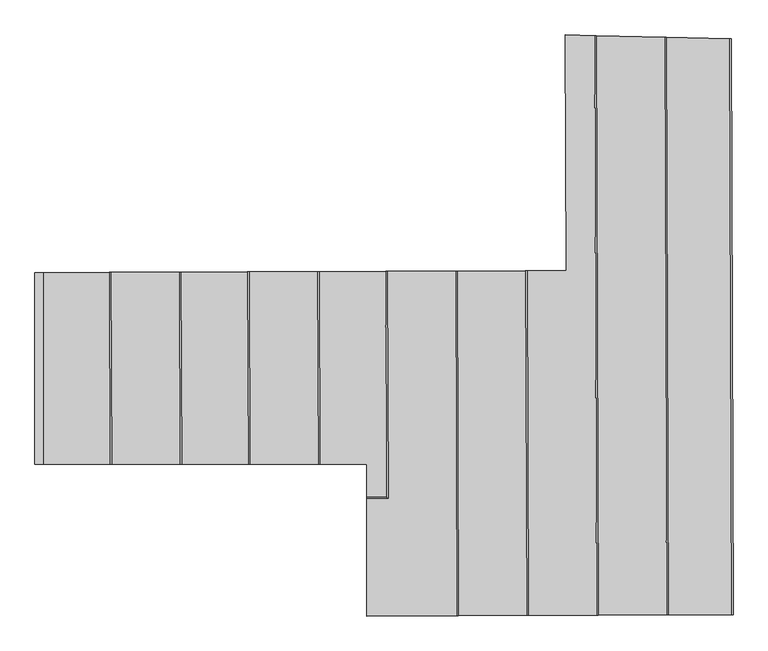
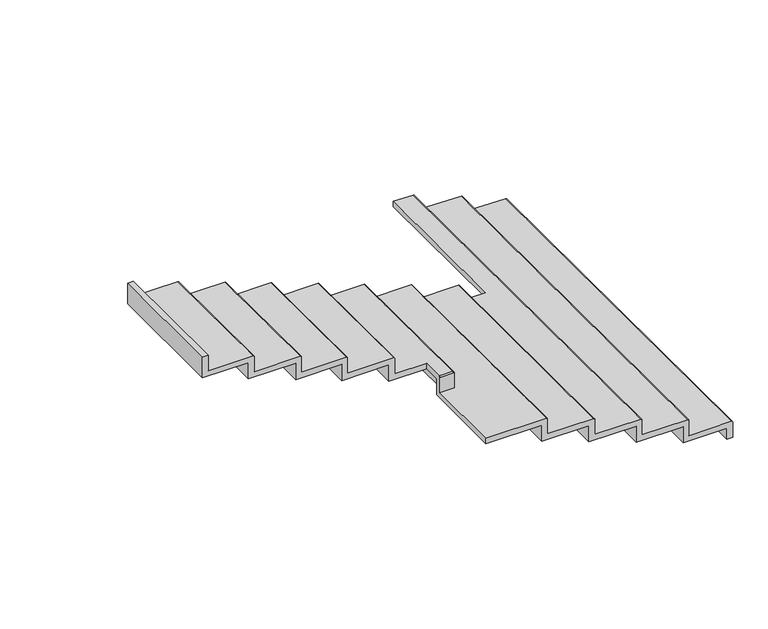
"""IFC4 building model written with IfcOpenShell, lengths in millimetres: stair flight geometry, Huella 50 mm Contrahuella 13 mm."""

from ifc_helpers import new_model, si_unit, frame, origin, place, context, project, spatial, circle_curve, ellipse_curve, source, transform, mapped, element, save
from ifc_brep_helpers import plane_surface, cylinder_surface, advanced_brep


def stair_flight_43c18c51(model_context):
    return source(origin(), model_context, "Body", "AdvancedBrep", [
        advanced_brep(
        [(34094.8858461, 5285.0023956, -2870.9090909), (34094.8858461, 5285.0023956, -3010.0), (34044.8813126, 5286.2226046, -3010.0), (34044.8813126, 5286.2226046, -2910.9090909), (33664.7198812, 5295.4992909, -2910.9090909), (33664.7198812, 5295.4992909, -2761.8181818), (33254.682278, 5305.5050145, -2761.8181818), (33254.682278, 5305.5050145, -2612.7272727), (33122.8734749, 5308.7214084, -2612.7272727), (33122.8734749, 5308.7214084, -2562.7272727), (33294.6859466, 5304.5288463, -2562.7272727), (33304.6868638, 5304.2848043, -2572.7272727), (33304.6868638, 5304.2848043, -2711.8181818), (33704.7235498, 5294.5231227, -2711.8181818), (33714.7244669, 5294.2790807, -2721.8181818), (33714.7244669, 5294.2790807, -2860.9090909), (34084.8849394, 5285.2464374, -2860.9090909), (34056.5950278, 1909.3473942, -3010.0), (34106.5947205, 1909.5227074, -3010.0), (34106.5947205, 1909.5227074, -2870.9090909), (34096.594782, 1909.4876448, -2860.9090909), (33726.5970563, 1908.1903276, -2860.9090909), (33726.5970563, 1908.1903276, -2721.8181818), (33716.5971178, 1908.155265, -2711.8181818), (33316.5995766, 1906.7527599, -2711.8181818), (33316.5995766, 1906.7527599, -2572.7272727), (33306.5996381, 1906.7176973, -2562.7272727), (32906.6020968, 1905.3151922, -2562.7272727), (32906.6020968, 1905.3151922, -2423.6363636), (32896.6021583, 1905.2801296, -2413.6363636), (32496.6046171, 1903.8776245, -2413.6363636), (32496.6046171, 1903.8776245, -2274.5454545), (32486.6046786, 1903.8425619, -2264.5454545), (31959.5548544, 1901.9945755, -2264.5454545), (31959.5548544, 1901.9945755, -2314.5454545), (32446.6049245, 1903.7023114, -2314.5454545), (32446.6049245, 1903.7023114, -2463.6363636), (32856.6024042, 1905.1398791, -2463.6363636), (32856.6024042, 1905.1398791, -2612.7272727), (33266.599884, 1906.5774468, -2612.7272727), (33266.599884, 1906.5774468, -2761.8181818), (33676.5973637, 1908.0150144, -2761.8181818), (33676.5973637, 1908.0150144, -2910.9090909), (34056.5950278, 1909.3473942, -2910.9090909), (33127.7213283, 3926.1029162, -2562.7272727), (32899.5194463, 3925.3027756, -2562.7272727), (33127.7213283, 3926.1029162, -2612.7272727), (32849.5197537, 3925.1274625, -2612.7272727), (32899.5194463, 3925.3027756, -2423.6363636), (32849.5197537, 3925.1274625, -2463.6363636), (32889.5195078, 3925.267713, -2413.6363636), (32489.5219666, 3923.865208, -2413.6363636), (32439.522274, 3923.6898949, -2463.6363636), (32489.5219666, 3923.865208, -2274.5454545), (32439.522274, 3923.6898949, -2314.5454545), (31959.5548544, 2591.998817, -2264.5454545), (32479.5220281, 3923.8301454, -2264.5454545), (32079.5244868, 3922.4276404, -2264.5454545), (32084.1878161, 2592.4358158, -2264.5454545), (31959.5548544, 2641.9991243, -2314.5454545), (32034.0128103, 2642.2601953, -2314.5454545), (32029.5247942, 3922.2523272, -2314.5454545), (31959.5548544, 2591.998817, -2125.4545455), (31959.5548544, 2601.9988785, -2115.4545455), (31959.5548544, 2792.0000466, -2115.4545455), (31959.5548544, 2792.0000466, -2165.4545455), (31959.5548544, 2641.9991243, -2165.4545455), (32079.5244868, 3922.4276404, -2125.4545455), (32084.1878161, 2592.4358158, -2125.4545455), (32034.0128103, 2642.2601953, -2165.4545455), (32029.5247942, 3922.2523272, -2165.4545455), (31683.4856284, 2792.0000466, -2115.4545455), (32074.152815, 2602.4006917, -2115.4545455), (32069.5245483, 3922.3925777, -2115.4545455), (31679.5269456, 3921.0251354, -2115.4545455), (31633.4853211, 2792.0000466, -2165.4545455), (31629.527253, 3920.8498222, -2165.4545455), (31683.4856284, 2792.0000466, -1976.3636364), (31673.485567, 2792.0000466, -1966.3636364), (31273.4831082, 2792.0000466, -1966.3636364), (31273.4831082, 2792.0000466, -1827.2727273), (31263.4830467, 2792.0000466, -1817.2727273), (30873.4806494, 2792.0000466, -1817.2727273), (30873.4806494, 2792.0000466, -1678.1818182), (30863.4805879, 2792.0000466, -1668.1818182), (30463.4781291, 2792.0000466, -1668.1818182), (30463.4781291, 2792.0000466, -1529.0909091), (30453.4780676, 2792.0000466, -1519.0909091), (30063.4756703, 2792.0000466, -1519.0909091), (30063.4756703, 2792.0000466, -1380.0), (30013.4756703, 2792.0000466, -1380.0), (30013.4756703, 2792.0000466, -1569.0909091), (30413.4778217, 2792.0000466, -1569.0909091), (30413.4778217, 2792.0000466, -1718.1818182), (30823.480342, 2792.0000466, -1718.1818182), (30823.480342, 2792.0000466, -1867.2727273), (31223.4828008, 2792.0000466, -1867.2727273), (31223.4828008, 2792.0000466, -2016.3636364), (31633.4853211, 2792.0000466, -2016.3636364), (31679.5269456, 3921.0251354, -1976.3636364), (31629.527253, 3920.8498222, -2016.3636364), (31669.5270071, 3920.9900727, -1966.3636364), (31269.5294659, 3919.5875677, -1966.3636364), (31219.5297732, 3919.4122546, -2016.3636364), (31269.5294659, 3919.5875677, -1827.2727273), (31219.5297732, 3919.4122546, -1867.2727273), (31259.5295273, 3919.5525051, -1817.2727273), (30869.5319247, 3918.1850627, -1817.2727273), (30819.532232, 3918.0097496, -1867.2727273), (30869.5319247, 3918.1850627, -1678.1818182), (30819.532232, 3918.0097496, -1718.1818182), (30859.5319861, 3918.1500001, -1668.1818182), (30459.5344449, 3916.7474951, -1668.1818182), (30409.5347523, 3916.572182, -1718.1818182), (30459.5344449, 3916.7474951, -1529.0909091), (30409.5347523, 3916.572182, -1569.0909091), (30063.4756703, 3915.3588005, -1380.0), (30063.4756703, 3915.3588005, -1519.0909091), (30013.4756703, 3915.1834863, -1569.0909091), (30013.4756703, 3915.1834863, -1380.0), (30449.5345064, 3916.7124325, -1519.0909091)],
        [
            (0, 1),
            (1, 2),
            (2, 3),
            (3, 4),
            (4, 5),
            (5, 6),
            (6, 7),
            (7, 8),
            (8, 9),
            (9, 10),
            (10, 11, ellipse_curve(frame((33294.6859466, 5304.5288463, -2572.7272727), z_axis=(0.024394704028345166, 0.9997024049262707, 0.0), x_axis=(-0.9997024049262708, 0.024394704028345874, 0.0)), 10.0038943, 10.0)),
            (11, 12),
            (12, 13),
            (13, 14, ellipse_curve(frame((33704.7235498, 5294.5231227, -2721.8181818), z_axis=(0.024394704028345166, 0.9997024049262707, 0.0), x_axis=(-0.9997024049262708, 0.024394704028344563, 0.0)), 10.0038943, 10.0)),
            (14, 15),
            (15, 16),
            (16, 0, ellipse_curve(frame((34084.8849394, 5285.2464374, -2870.9090909), z_axis=(0.024394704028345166, 0.9997024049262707, 0.0), x_axis=(-0.9997024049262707, 0.024394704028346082, 0.0)), 10.0038838, 10.0)),
            (17, 18),
            (18, 19),
            (19, 20, ellipse_curve(frame((34096.594782, 1909.4876448, -2870.9090909), z_axis=(0.003506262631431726, -0.9999938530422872, 0.0), x_axis=(0.9999938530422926, 0.003506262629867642, 0.0)), 10.0, 10.0)),
            (20, 21),
            (21, 22),
            (22, 23, circle_curve(frame((33716.5971178, 1908.155265, -2721.8181818), z_axis=(0.0035062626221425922, -0.9999938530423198, 0.0), x_axis=(-0.9999938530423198, -0.0035062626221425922, 0.0)), 10.0)),
            (23, 24),
            (24, 25),
            (25, 26, circle_curve(frame((33306.5996381, 1906.7176973, -2572.7272727), z_axis=(0.003506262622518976, -0.9999938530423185, 0.0), x_axis=(-0.9999938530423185, -0.003506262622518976, 0.0)), 10.0)),
            (26, 27),
            (27, 28),
            (28, 29, circle_curve(frame((32896.6021583, 1905.2801296, -2423.6363636), z_axis=(0.0035062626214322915, -0.9999938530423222, 0.0), x_axis=(-0.9999938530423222, -0.0035062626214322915, 0.0)), 10.0)),
            (29, 30),
            (30, 31),
            (31, 32, circle_curve(frame((32486.6046786, 1903.8425619, -2274.5454545), z_axis=(0.003506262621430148, -0.9999938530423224, 0.0), x_axis=(-0.9999938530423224, -0.003506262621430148, 0.0)), 10.0)),
            (32, 33),
            (33, 34),
            (34, 35),
            (35, 36),
            (36, 37),
            (37, 38),
            (38, 39),
            (39, 40),
            (40, 41),
            (41, 42),
            (42, 43),
            (43, 17),
            (0, 19),
            (18, 1),
            (17, 2),
            (43, 3),
            (20, 16),
            (15, 21),
            (42, 4),
            (14, 22),
            (41, 5),
            (23, 13),
            (12, 24),
            (40, 6),
            (11, 25),
            (39, 7),
            (26, 10),
            (9, 44),
            (44, 45),
            (45, 27),
            (46, 8),
            (38, 47),
            (47, 46),
            (45, 48),
            (48, 28),
            (37, 49),
            (49, 47),
            (29, 50),
            (50, 51),
            (51, 30),
            (36, 52),
            (52, 49),
            (51, 53),
            (53, 31),
            (35, 54),
            (54, 52),
            (55, 33),
            (32, 56),
            (56, 57),
            (57, 58),
            (58, 55),
            (34, 59),
            (59, 60),
            (60, 61),
            (61, 54),
            (55, 62),
            (62, 63, ellipse_curve(frame((31959.5548544, 2601.9988785, -2125.4545455), z_axis=(-1.0, 0.0, 0.0), x_axis=(0.0, 0.9999999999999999, 0.0)), 10.0000615, 10.0)),
            (63, 64),
            (64, 65),
            (65, 66),
            (66, 59),
            (57, 67),
            (67, 68),
            (68, 58),
            (60, 69),
            (69, 70),
            (70, 61),
            (68, 62),
            (66, 69),
            (71, 64),
            (63, 72),
            (72, 73),
            (73, 74),
            (74, 71),
            (65, 75),
            (75, 76),
            (76, 70),
            (71, 77),
            (77, 78, ellipse_curve(frame((31673.485567, 2792.0000466, -1976.3636364), z_axis=(0.0, -1.0, 0.0), x_axis=(-0.9999999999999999, 0.0, 0.0)), 10.0000615, 10.0)),
            (78, 79),
            (79, 80),
            (80, 81, ellipse_curve(frame((31263.4830467, 2792.0000466, -1827.2727273), z_axis=(0.0, -1.0, 0.0), x_axis=(-0.9999999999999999, 0.0, 0.0)), 10.0000615, 10.0)),
            (81, 82),
            (82, 83),
            (83, 84, ellipse_curve(frame((30863.4805879, 2792.0000466, -1678.1818182), z_axis=(0.0, -1.0, 0.0), x_axis=(-1.0, 0.0, 0.0)), 10.0000615, 10.0)),
            (84, 85),
            (85, 86),
            (86, 87, ellipse_curve(frame((30453.4780676, 2792.0000466, -1529.0909091), z_axis=(0.0, -1.0, 0.0), x_axis=(-1.0, 0.0, 0.0)), 10.0000615, 10.0)),
            (87, 88),
            (88, 89),
            (89, 90),
            (90, 91),
            (91, 92),
            (92, 93),
            (93, 94),
            (94, 95),
            (95, 96),
            (96, 97),
            (97, 98),
            (98, 75),
            (74, 99),
            (99, 77),
            (98, 100),
            (100, 76),
            (78, 101),
            (101, 102),
            (102, 79),
            (97, 103),
            (103, 100),
            (102, 104),
            (104, 80),
            (96, 105),
            (105, 103),
            (81, 106),
            (106, 107),
            (107, 82),
            (95, 108),
            (108, 105),
            (107, 109),
            (109, 83),
            (94, 110),
            (110, 108),
            (84, 111),
            (111, 112),
            (112, 85),
            (93, 113),
            (113, 110),
            (112, 114),
            (114, 86),
            (92, 115),
            (115, 113),
            (116, 89),
            (88, 117),
            (117, 116),
            (91, 118),
            (118, 115),
            (119, 118),
            (90, 119),
            (116, 119),
            (87, 120),
            (120, 117),
            (46, 44),
            (120, 114, circle_curve(frame((30449.5345064, 3916.7124325, -1529.0909091), z_axis=(-0.003506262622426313, 0.9999938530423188, 0.0), x_axis=(-0.9999938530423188, -0.003506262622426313, 0.0)), 10.0)),
            (111, 109, circle_curve(frame((30859.5319861, 3918.1500001, -1678.1818182), z_axis=(-0.003506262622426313, 0.9999938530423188, 0.0), x_axis=(-0.9999938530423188, -0.003506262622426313, 0.0)), 10.0)),
            (106, 104, circle_curve(frame((31259.5295273, 3919.5525051, -1827.2727273), z_axis=(-0.0035062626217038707, 0.9999938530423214, 0.0), x_axis=(-0.9999938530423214, -0.0035062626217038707, 0.0)), 10.0)),
            (101, 99, circle_curve(frame((31669.5270071, 3920.9900727, -1976.3636364), z_axis=(-0.003506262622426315, 0.9999938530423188, 0.0), x_axis=(-0.9999938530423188, -0.003506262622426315, 0.0)), 10.0)),
            (73, 67, circle_curve(frame((32069.5245483, 3922.3925777, -2125.4545455), z_axis=(-0.0035062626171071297, 0.9999938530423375, 0.0), x_axis=(-0.9999938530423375, -0.0035062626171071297, 0.0)), 10.0)),
            (56, 53, circle_curve(frame((32479.5220281, 3923.8301454, -2274.5454545), z_axis=(-0.003506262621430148, 0.9999938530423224, 0.0), x_axis=(-0.9999938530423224, -0.003506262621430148, 0.0)), 10.0)),
            (50, 48, circle_curve(frame((32889.5195078, 3925.267713, -2423.6363636), z_axis=(-0.0035062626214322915, 0.9999938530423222, 0.0), x_axis=(-0.9999938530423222, -0.0035062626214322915, 0.0)), 10.0)),
            (72, 68, ellipse_curve(frame((32074.152815, 2602.4006917, -2125.4545455), z_axis=(0.7046231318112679, 0.7095817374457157, 0.0), x_axis=(-0.7095817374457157, 0.7046231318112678, 0.0)), 14.1421356, 10.0)),
        ],
        [
            plane_surface(frame((34084.8849394, 5285.2464374, -2860.9090909), z_axis=(0.024394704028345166, 0.9997024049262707, 0.0), x_axis=(0.9997024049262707, -0.024394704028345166, 0.0))),
            plane_surface(frame((34096.594782, 1909.4876448, -2860.9090909), z_axis=(0.003506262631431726, -0.9999938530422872, 0.0), x_axis=(0.9999938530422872, 0.003506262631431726, 0.0))),
            plane_surface(frame((34094.8858461, 5285.0023956, -2870.9090909), z_axis=(0.9999939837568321, 0.003468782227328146, 0.0), x_axis=(0.003468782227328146, -0.9999939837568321, 0.0))),
            plane_surface(frame((34094.8858461, 5285.0023956, -3010.0), z_axis=(0.0, 0.0, -1.0), x_axis=(0.003468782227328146, -0.9999939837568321, 0.0))),
            plane_surface(frame((34044.8813126, 5286.2226046, -3010.0), z_axis=(-0.9999939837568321, -0.0034687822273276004, 0.0), x_axis=(0.0034687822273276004, -0.9999939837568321, 0.0))),
            plane_surface(frame((34056.5950279, 1909.3473942, -2860.9090909), z_axis=(0.0, 0.0, 1.0), x_axis=(0.9999938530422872, 0.003506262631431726, 0.0))),
            plane_surface(frame((34056.5950279, 1909.3473942, -2910.9090909), z_axis=(0.0, 0.0, -1.0), x_axis=(-0.9999938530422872, -0.003506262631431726, 0.0))),
            plane_surface(frame((33714.7244669, 5294.2790807, -2721.8181818), z_axis=(0.9999938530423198, 0.003506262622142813, 0.0), x_axis=(0.003506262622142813, -0.9999938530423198, 0.0))),
            plane_surface(frame((33664.7198812, 5295.4992909, -2910.9090909), z_axis=(-0.9999938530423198, -0.0035062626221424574, 0.0), x_axis=(0.0035062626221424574, -0.9999938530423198, 0.0))),
            plane_surface(frame((34056.5950279, 1909.3473942, -2711.8181818), z_axis=(0.0, 0.0, 1.0), x_axis=(0.9999938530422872, 0.003506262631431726, 0.0))),
            plane_surface(frame((34056.5950279, 1909.3473942, -2761.8181818), z_axis=(0.0, 0.0, -1.0), x_axis=(-0.9999938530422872, -0.003506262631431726, 0.0))),
            plane_surface(frame((33304.6868638, 5304.2848043, -2572.7272727), z_axis=(0.9999938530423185, 0.0035062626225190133, 0.0), x_axis=(0.0035062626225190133, -0.9999938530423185, 0.0))),
            plane_surface(frame((33254.682278, 5305.5050145, -2761.8181818), z_axis=(-0.9999938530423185, -0.0035062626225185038, 0.0), x_axis=(0.0035062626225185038, -0.9999938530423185, 0.0))),
            plane_surface(frame((34056.5950279, 1909.3473942, -2562.7272727), z_axis=(0.0, 0.0, 1.0), x_axis=(0.9999938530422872, 0.003506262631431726, 0.0))),
            plane_surface(frame((34056.5950279, 1909.3473942, -2612.7272727), z_axis=(0.0, 0.0, -1.0), x_axis=(-0.9999938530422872, -0.003506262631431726, 0.0))),
            plane_surface(frame((32899.5194463, 3925.3027756, -2423.6363636), z_axis=(0.9999938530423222, 0.0035062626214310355, 0.0), x_axis=(0.0035062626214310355, -0.9999938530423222, 0.0))),
            plane_surface(frame((32849.5197537, 3925.1274625, -2612.7272727), z_axis=(-0.9999938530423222, -0.0035062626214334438, 0.0), x_axis=(0.0035062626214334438, -0.9999938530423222, 0.0))),
            plane_surface(frame((34056.5950279, 1909.3473942, -2413.6363636), z_axis=(0.0, 0.0, 1.0), x_axis=(0.9999938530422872, 0.003506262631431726, 0.0))),
            plane_surface(frame((34056.5950279, 1909.3473942, -2463.6363636), z_axis=(0.0, 0.0, -1.0), x_axis=(-0.9999938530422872, -0.003506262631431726, 0.0))),
            plane_surface(frame((32489.5219666, 3923.865208, -2274.5454545), z_axis=(0.9999938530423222, 0.003506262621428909, 0.0), x_axis=(0.003506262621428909, -0.9999938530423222, 0.0))),
            plane_surface(frame((32439.522274, 3923.6898949, -2463.6363636), z_axis=(-0.9999938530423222, -0.0035062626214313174, 0.0), x_axis=(0.0035062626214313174, -0.9999938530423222, 0.0))),
            plane_surface(frame((31959.5548544, 84.8504741, -2264.5454545), z_axis=(0.0, 0.0, 1.0), x_axis=(0.0, -1.0, 0.0))),
            plane_surface(frame((31959.5548544, 84.8504741, -2314.5454545), z_axis=(0.0, 0.0, -1.0), x_axis=(0.0, 1.0, 0.0))),
            plane_surface(frame((31959.5548544, 2591.998817, -2264.5454545), z_axis=(-1.0, 0.0, 0.0), x_axis=(0.0, 0.0, -1.0))),
            plane_surface(frame((32079.5244868, 3922.4276404, -2125.4545455), z_axis=(0.9999938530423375, 0.003506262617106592, 0.0), x_axis=(0.003506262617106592, -0.9999938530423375, 0.0))),
            plane_surface(frame((32029.5247942, 3922.2523272, -2314.5454545), z_axis=(-0.9999938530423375, -0.0035062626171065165, 0.0), x_axis=(0.0035062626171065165, -0.9999938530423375, 0.0))),
            plane_surface(frame((32084.1878161, 2592.4358158, -2125.4545455), z_axis=(0.003506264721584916, -0.9999938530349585, 0.0), x_axis=(-0.9999938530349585, -0.003506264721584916, 0.0))),
            plane_surface(frame((32034.0128103, 2642.2601953, -2314.5454545), z_axis=(-0.0035062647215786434, 0.9999938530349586, 0.0), x_axis=(-0.9999938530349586, -0.0035062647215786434, 0.0))),
            plane_surface(frame((31959.5548544, 2792.0000466, -2115.4545455), z_axis=(0.0, 0.0, 1.0), x_axis=(1.0, 0.0, 0.0))),
            plane_surface(frame((31959.5548544, 2792.0000466, -2165.4545455), z_axis=(0.0, 0.0, -1.0), x_axis=(-1.0, 0.0, 0.0))),
            plane_surface(frame((31683.4856284, 2792.0000466, -2115.4545455), z_axis=(0.0, -1.0, 0.0), x_axis=(0.0, 0.0, -1.0))),
            plane_surface(frame((31679.5269456, 3921.0251354, -1976.3636364), z_axis=(0.9999938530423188, 0.0035062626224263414, 0.0), x_axis=(0.0035062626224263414, -0.9999938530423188, 0.0))),
            plane_surface(frame((31629.527253, 3920.8498222, -2165.4545455), z_axis=(-0.9999938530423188, -0.003506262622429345, 0.0), x_axis=(0.003506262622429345, -0.9999938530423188, 0.0))),
            plane_surface(frame((31959.5548544, 2792.0000466, -1966.3636364), z_axis=(0.0, 0.0, 1.0), x_axis=(1.0, 0.0, 0.0))),
            plane_surface(frame((31959.5548544, 2792.0000466, -2016.3636364), z_axis=(0.0, 0.0, -1.0), x_axis=(-1.0, 0.0, 0.0))),
            plane_surface(frame((31269.5294659, 3919.5875677, -1827.2727273), z_axis=(0.9999938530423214, 0.0035062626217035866, 0.0), x_axis=(0.0035062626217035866, -0.9999938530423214, 0.0))),
            plane_surface(frame((31219.5297732, 3919.4122546, -2016.3636364), z_axis=(-0.9999938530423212, -0.0035062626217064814, 0.0), x_axis=(0.0035062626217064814, -0.9999938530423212, 0.0))),
            plane_surface(frame((31959.5548544, 2792.0000466, -1817.2727273), z_axis=(0.0, 0.0, 1.0), x_axis=(1.0, 0.0, 0.0))),
            plane_surface(frame((31959.5548544, 2792.0000466, -1867.2727273), z_axis=(0.0, 0.0, -1.0), x_axis=(-1.0, 0.0, 0.0))),
            plane_surface(frame((30869.5319247, 3918.1850627, -1678.1818182), z_axis=(0.9999938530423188, 0.0035062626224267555, 0.0), x_axis=(0.0035062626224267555, -0.9999938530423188, 0.0))),
            plane_surface(frame((30819.532232, 3918.0097496, -1867.2727273), z_axis=(-0.9999938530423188, -0.0035062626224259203, 0.0), x_axis=(0.0035062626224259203, -0.9999938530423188, 0.0))),
            plane_surface(frame((31959.5548544, 2792.0000466, -1668.1818182), z_axis=(0.0, 0.0, 1.0), x_axis=(1.0, 0.0, 0.0))),
            plane_surface(frame((31959.5548544, 2792.0000466, -1718.1818182), z_axis=(0.0, 0.0, -1.0), x_axis=(-1.0, 0.0, 0.0))),
            plane_surface(frame((30459.5344449, 3916.7474951, -1529.0909091), z_axis=(0.9999938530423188, 0.0035062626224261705, 0.0), x_axis=(0.0035062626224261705, -0.9999938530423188, 0.0))),
            plane_surface(frame((30409.5347523, 3916.572182, -1718.1818182), z_axis=(-0.9999938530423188, -0.003506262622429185, 0.0), x_axis=(0.003506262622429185, -0.9999938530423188, 0.0))),
            plane_surface(frame((30063.4756703, 3915.3588005, -1380.0), z_axis=(1.0, 0.0, 0.0), x_axis=(0.0, -1.0, 0.0))),
            plane_surface(frame((30063.4756703, 3915.3588005, -1569.0909091), z_axis=(0.0, 0.0, -1.0), x_axis=(0.0, -1.0, 0.0))),
            plane_surface(frame((30013.4756703, 3915.1834863, -1569.0909091), z_axis=(-1.0, 0.0, 0.0), x_axis=(0.0, -1.0, 0.0))),
            plane_surface(frame((30013.4756703, 3915.1834863, -1380.0), z_axis=(0.0, 0.0, 1.0), x_axis=(0.0, -1.0, 0.0))),
            plane_surface(frame((31959.5548544, 2792.0000466, -1519.0909091), z_axis=(0.0, 0.0, 1.0), x_axis=(1.0, 0.0, 0.0))),
            plane_surface(frame((33122.8734749, 5308.7214084, -2562.7272727), z_axis=(-0.9999938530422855, -0.003506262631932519, 0.0), x_axis=(0.0, 0.0, -1.0))),
            plane_surface(frame((33127.7213283, 3926.1029162, -2562.7272727), z_axis=(-0.003506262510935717, 0.9999938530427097, 0.0), x_axis=(0.0, 0.0, -1.0))),
            cylinder_surface(frame((34084.8849394, 5285.2464374, -2870.9090909), z_axis=(-0.003468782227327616, 0.9999939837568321, 0.0), x_axis=(-0.9999939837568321, -0.003468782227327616, 0.0)), 10.0),
            cylinder_surface(frame((33704.7235498, 5294.5231227, -2721.8181818), z_axis=(-0.0035062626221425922, 0.9999938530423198, 0.0), x_axis=(-0.9999938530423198, -0.0035062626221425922, 0.0)), 10.0),
            cylinder_surface(frame((33294.6859466, 5304.5288463, -2572.7272727), z_axis=(-0.003506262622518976, 0.9999938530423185, 0.0), x_axis=(-0.9999938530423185, -0.003506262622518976, 0.0)), 10.0),
            cylinder_surface(frame((32889.5195078, 3925.267713, -2423.6363636), z_axis=(-0.0035062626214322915, 0.9999938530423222, 0.0), x_axis=(-0.9999938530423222, -0.0035062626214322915, 0.0)), 10.0),
            cylinder_surface(frame((32479.5220281, 3923.8301454, -2274.5454545), z_axis=(-0.003506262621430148, 0.9999938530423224, 0.0), x_axis=(-0.9999938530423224, -0.003506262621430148, 0.0)), 10.0),
            cylinder_surface(frame((32069.5245483, 3922.3925777, -2125.4545455), z_axis=(-0.0035062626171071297, 0.9999938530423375, 0.0), x_axis=(-0.9999938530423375, -0.0035062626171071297, 0.0)), 10.0),
            cylinder_surface(frame((32074.152815, 2602.4006917, -2125.4545455), z_axis=(0.9999938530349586, 0.0035062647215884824, 0.0), x_axis=(-0.0035062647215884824, 0.9999938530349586, 0.0)), 10.0),
            cylinder_surface(frame((31669.5270071, 3920.9900727, -1976.3636364), z_axis=(-0.003506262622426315, 0.9999938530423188, 0.0), x_axis=(-0.9999938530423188, -0.003506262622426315, 0.0)), 10.0),
            cylinder_surface(frame((31259.5295273, 3919.5525051, -1827.2727273), z_axis=(-0.0035062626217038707, 0.9999938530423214, 0.0), x_axis=(-0.9999938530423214, -0.0035062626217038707, 0.0)), 10.0),
            cylinder_surface(frame((30859.5319861, 3918.1500001, -1678.1818182), z_axis=(-0.003506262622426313, 0.9999938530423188, 0.0), x_axis=(-0.9999938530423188, -0.003506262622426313, 0.0)), 10.0),
            cylinder_surface(frame((30449.5345064, 3916.7124325, -1529.0909091), z_axis=(-0.003506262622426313, 0.9999938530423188, 0.0), x_axis=(-0.9999938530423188, -0.003506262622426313, 0.0)), 10.0),
        ],
        [
            (0, [[1, 2, 3, 4, 5, 6, 7, 8, 9, 10, 11, 12, 13, 14, 15, 16, 17]]),
            (1, [[18, 19, 20, 21, 22, 23, 24, 25, 26, 27, 28, 29, 30, 31, 32, 33, 34, 35, 36, 37, 38, 39, 40, 41, 42, 43, 44]]),
            (2, [[-1, 45, -19, 46]]),
            (3, [[-2, -46, -18, 47]]),
            (4, [[-47, -44, 48, -3]]),
            (5, [[-21, 49, -16, 50]]),
            (6, [[-48, -43, 51, -4]]),
            (7, [[-22, -50, -15, 52]]),
            (8, [[-51, -42, 53, -5]]),
            (9, [[-24, 54, -13, 55]]),
            (10, [[-53, -41, 56, -6]]),
            (11, [[-25, -55, -12, 57]]),
            (12, [[-56, -40, 58, -7]]),
            (13, [[-27, 59, -10, 60, 61, 62]]),
            (14, [[63, -8, -58, -39, 64, 65]]),
            (15, [[-28, -62, 66, 67]]),
            (16, [[-64, -38, 68, 69]]),
            (17, [[-30, 70, 71, 72]]),
            (18, [[-68, -37, 73, 74]]),
            (19, [[-31, -72, 75, 76]]),
            (20, [[-73, -36, 77, 78]]),
            (21, [[79, -33, 80, 81, 82, 83]]),
            (22, [[-35, 84, 85, 86, 87, -77]]),
            (23, [[-79, 88, 89, 90, 91, 92, 93, -84, -34]]),
            (24, [[94, 95, 96, -82]]),
            (25, [[-86, 97, 98, 99]]),
            (26, [[-88, -83, -96, 100]]),
            (27, [[-85, -93, 101, -97]]),
            (28, [[102, -90, 103, 104, 105, 106]]),
            (29, [[-92, 107, 108, 109, -98, -101]]),
            (30, [[-102, 110, 111, 112, 113, 114, 115, 116, 117, 118, 119, 120, 121, 122, 123, 124, 125, 126, 127, 128, 129, 130, 131, 132, -107, -91]]),
            (31, [[-110, -106, 133, 134]]),
            (32, [[-108, -132, 135, 136]]),
            (33, [[-112, 137, 138, 139]]),
            (34, [[-135, -131, 140, 141]]),
            (35, [[-113, -139, 142, 143]]),
            (36, [[-140, -130, 144, 145]]),
            (37, [[-115, 146, 147, 148]]),
            (38, [[-144, -129, 149, 150]]),
            (39, [[-116, -148, 151, 152]]),
            (40, [[-149, -128, 153, 154]]),
            (41, [[-118, 155, 156, 157]]),
            (42, [[-153, -127, 158, 159]]),
            (43, [[-119, -157, 160, 161]]),
            (44, [[-158, -126, 162, 163]]),
            (45, [[164, -122, 165, 166]]),
            (46, [[-162, -125, 167, 168]]),
            (47, [[169, -167, -124, 170]]),
            (48, [[171, -170, -123, -164]]),
            (49, [[-121, 172, 173, -165]]),
            (50, [[-60, -9, -63, 174]]),
            (51, [[-61, -174, -65, -69, -74, -78, -87, -99, -109, -136, -141, -145, -150, -154, -159, -163, -168, -169, -171, -166, -173, 175, -160, -156, 176, -151, -147, 177, -142, -138, 178, -133, -105, 179, -94, -81, 180, -75, -71, 181, -66]]),
            (52, [[-49, -20, -45, -17]]),
            (53, [[-54, -23, -52, -14]]),
            (54, [[-59, -26, -57, -11]]),
            (55, [[-70, -29, -67, -181]]),
            (56, [[-80, -32, -76, -180]]),
            (57, [[-104, 182, -95, -179]]),
            (58, [[-103, -89, -100, -182]]),
            (59, [[-137, -111, -134, -178]]),
            (60, [[-146, -114, -143, -177]]),
            (61, [[-155, -117, -152, -176]]),
            (62, [[-172, -120, -161, -175]]),
        ],
    ),
    ])


if __name__ == "__main__":
    model = new_model("IFC4")
    model_context = context("Model", 3, world=origin())
    ifc_project = project(units=[si_unit("LENGTHUNIT", "METRE", prefix="MILLI")], contexts=[model_context])
    site = spatial("IfcSite", under=ifc_project)
    building = spatial("IfcBuilding", under=site)
    placement = place(None, origin())
    stair_flight_shape = stair_flight_43c18c51(model_context)
    element("IfcStairFlight", 1, ObjectType="Huella 50 mm Contrahuella 13 mm", at=placement, inside=building, context=model_context, shape_type="MappedRepresentation", body=[
        mapped(stair_flight_shape, transform((0.0, 0.0, 0.0), x_axis=(1.0, 0.0, 0.0), y_axis=(0.0, 1.0, 0.0), z_axis=(0.0, 0.0, 1.0))),
    ])
    save(model, "model.ifc")
